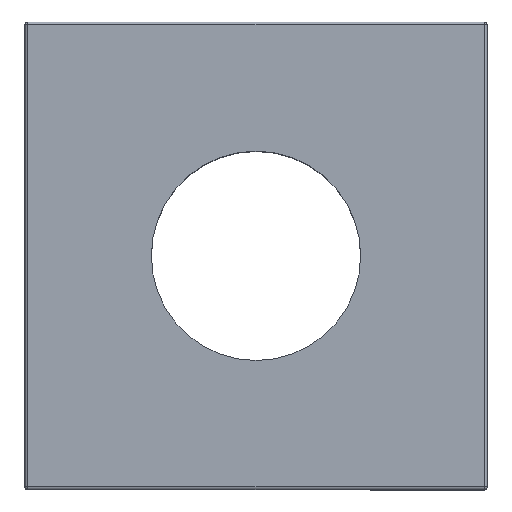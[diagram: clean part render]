
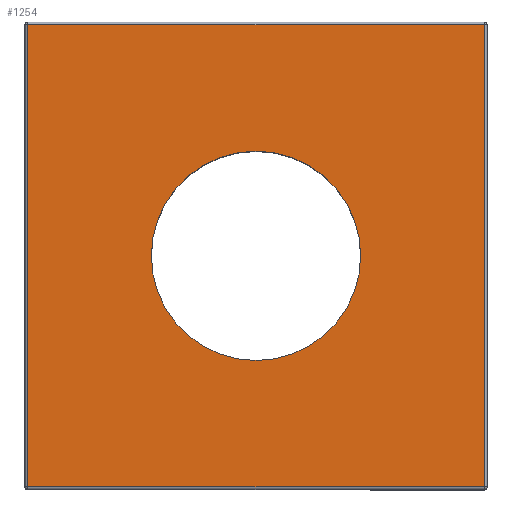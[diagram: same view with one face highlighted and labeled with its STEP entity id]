
A CAD part, top view. The second image highlights one B-rep face of the part: STEP entity #1254.
In plain terms, the highlighted planar face has unit normal (0, 0, 1).
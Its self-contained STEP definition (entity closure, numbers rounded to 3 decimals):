
#189 = AXIS2_PLACEMENT_3D ( 'NONE', #401, #3397, #1861 ) ;
#268 = LINE ( 'NONE', #366, #5093 ) ;
#292 = DIRECTION ( 'NONE',  ( 0., 0., 1. ) ) ;
#330 = DIRECTION ( 'NONE',  ( 1., 0., 0. ) ) ;
#366 = CARTESIAN_POINT ( 'NONE',  ( 2262.642, -635.856, 0. ) ) ;
#401 = CARTESIAN_POINT ( 'NONE',  ( 2283.142, -635.856, 0. ) ) ;
#751 = ORIENTED_EDGE ( 'NONE', *, *, #3876, .F. ) ;
#798 = VECTOR ( 'NONE', #330, 1000. ) ;
#878 = CARTESIAN_POINT ( 'NONE',  ( 2283.142, -615.106, 0. ) ) ;
#1254 = ADVANCED_FACE ( 'NONE', ( #6169, #4823 ), #2497, .F. ) ;
#1299 = EDGE_CURVE ( 'NONE', #1560, #3606, #3313, .T. ) ;
#1344 = LINE ( 'NONE', #6259, #2568 ) ;
#1388 = ORIENTED_EDGE ( 'NONE', *, *, #6058, .F. ) ;
#1560 = VERTEX_POINT ( 'NONE', #1715 ) ;
#1612 = CARTESIAN_POINT ( 'NONE',  ( 2283.142, -656.606, 0. ) ) ;
#1715 = CARTESIAN_POINT ( 'NONE',  ( 2273.742, -635.856, 0. ) ) ;
#1736 = CARTESIAN_POINT ( 'NONE',  ( 2292.542, -635.856, 0. ) ) ;
#1797 = AXIS2_PLACEMENT_3D ( 'NONE', #2806, #292, #2260 ) ;
#1861 = DIRECTION ( 'NONE',  ( 1., 0., 0. ) ) ;
#1927 = EDGE_LOOP ( 'NONE', ( #6044, #4058, #751, #6206 ) ) ;
#2260 = DIRECTION ( 'NONE',  ( 1., 0., 0. ) ) ;
#2497 = PLANE ( 'NONE',  #3562 ) ;
#2568 = VECTOR ( 'NONE', #5833, 1000. ) ;
#2681 = CARTESIAN_POINT ( 'NONE',  ( 2303.642, -656.606, 0. ) ) ;
#2760 = CARTESIAN_POINT ( 'NONE',  ( 2262.642, -615.106, 0. ) ) ;
#2806 = CARTESIAN_POINT ( 'NONE',  ( 2283.142, -635.856, 0. ) ) ;
#2873 = VERTEX_POINT ( 'NONE', #4618 ) ;
#3176 = LINE ( 'NONE', #878, #798 ) ;
#3313 = CIRCLE ( 'NONE', #189, 9.4 ) ;
#3397 = DIRECTION ( 'NONE',  ( 0., 0., 1. ) ) ;
#3517 = DIRECTION ( 'NONE',  ( 0., 0., -1. ) ) ;
#3562 = AXIS2_PLACEMENT_3D ( 'NONE', #6049, #3517, #4023 ) ;
#3606 = VERTEX_POINT ( 'NONE', #1736 ) ;
#3637 = DIRECTION ( 'NONE',  ( -1., 0., 0. ) ) ;
#3788 = VERTEX_POINT ( 'NONE', #2760 ) ;
#3862 = LINE ( 'NONE', #1612, #5065 ) ;
#3876 = EDGE_CURVE ( 'NONE', #2873, #3788, #268, .T. ) ;
#4023 = DIRECTION ( 'NONE',  ( -1., 0., 0. ) ) ;
#4058 = ORIENTED_EDGE ( 'NONE', *, *, #5205, .F. ) ;
#4184 = CARTESIAN_POINT ( 'NONE',  ( 2303.642, -615.106, 0. ) ) ;
#4312 = EDGE_CURVE ( 'NONE', #5882, #5322, #1344, .T. ) ;
#4618 = CARTESIAN_POINT ( 'NONE',  ( 2262.642, -656.606, 0. ) ) ;
#4823 = FACE_BOUND ( 'NONE', #6499, .T. ) ;
#4941 = DIRECTION ( 'NONE',  ( 0., 1., 0. ) ) ;
#5065 = VECTOR ( 'NONE', #3637, 1000. ) ;
#5093 = VECTOR ( 'NONE', #4941, 1000. ) ;
#5205 = EDGE_CURVE ( 'NONE', #3788, #5882, #3176, .T. ) ;
#5322 = VERTEX_POINT ( 'NONE', #2681 ) ;
#5450 = CIRCLE ( 'NONE', #1797, 9.4 ) ;
#5571 = ORIENTED_EDGE ( 'NONE', *, *, #1299, .F. ) ;
#5739 = EDGE_CURVE ( 'NONE', #5322, #2873, #3862, .T. ) ;
#5833 = DIRECTION ( 'NONE',  ( 0., -1., 0. ) ) ;
#5882 = VERTEX_POINT ( 'NONE', #4184 ) ;
#6044 = ORIENTED_EDGE ( 'NONE', *, *, #4312, .F. ) ;
#6049 = CARTESIAN_POINT ( 'NONE',  ( 2283.142, -635.856, 0. ) ) ;
#6058 = EDGE_CURVE ( 'NONE', #3606, #1560, #5450, .T. ) ;
#6169 = FACE_OUTER_BOUND ( 'NONE', #1927, .T. ) ;
#6206 = ORIENTED_EDGE ( 'NONE', *, *, #5739, .F. ) ;
#6259 = CARTESIAN_POINT ( 'NONE',  ( 2303.642, -635.856, 0. ) ) ;
#6499 = EDGE_LOOP ( 'NONE', ( #1388, #5571 ) ) ;
